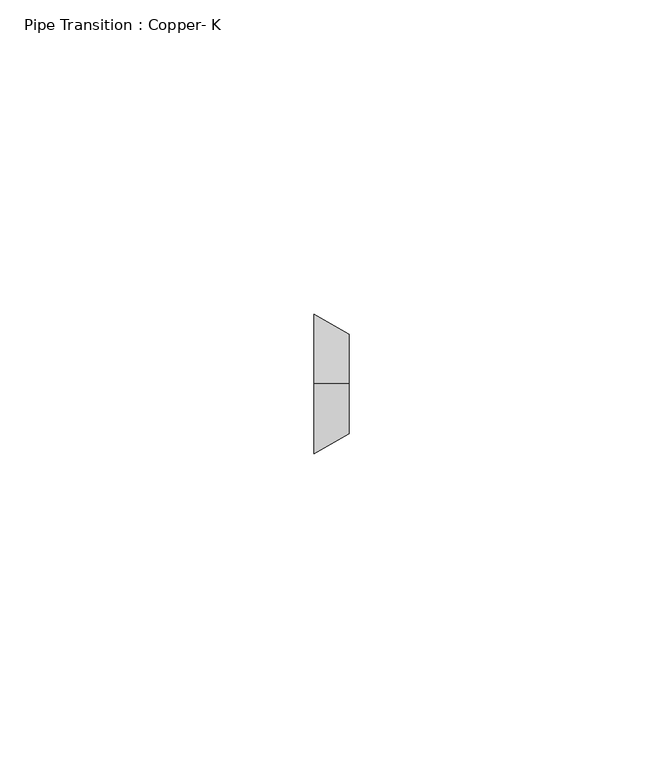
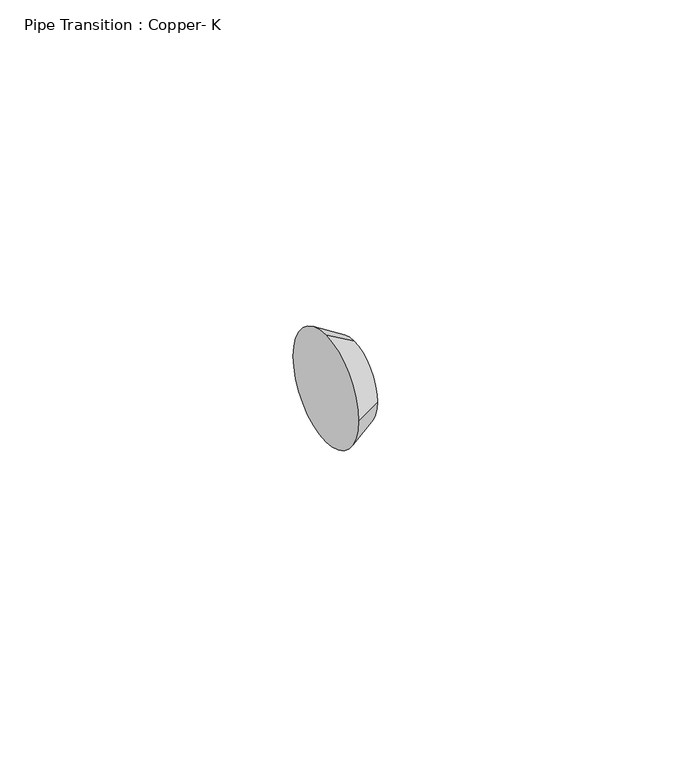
"""IFC4 building model written with IfcOpenShell, lengths in millimetres: pipe fitting geometry, Pipe Transition : Copper- K."""

from ifc_helpers import new_model, si_unit, frame, origin, place, context, project, spatial, circle_curve, source, transform, mapped, element, save
from ifc_brep_helpers import plane_surface, spline_surface, advanced_brep


def pipe_transition_copper_k_d23cabe6(model_context):
    return source(origin(), model_context, "Body", "AdvancedBrep", [
        advanced_brep(
        [(5.55625, 0.0, 7.9390355), (5.55625, -7.9375, 0.0015355), (5.55625, 0.0, -7.9359645), (5.55625, 7.9375, 0.0015355), (0.0, 0.0, 11.1125), (0.0, 11.1125, 0.0), (0.0, 0.0, -11.1125), (0.0, -11.1125, 0.0)],
        [
            (0, 1, circle_curve(frame((5.55625, 0.0, 0.0015355), z_axis=(1.0, 0.0, 0.0), x_axis=(0.0, 1.0, 0.0)), 7.9375)),
            (1, 2, circle_curve(frame((5.55625, 0.0, 0.0015355), z_axis=(1.0, 0.0, 0.0), x_axis=(0.0, 1.0, 0.0)), 7.9375)),
            (2, 3, circle_curve(frame((5.55625, 0.0, 0.0015355), z_axis=(1.0, 0.0, 0.0), x_axis=(0.0, 1.0, 0.0)), 7.9375)),
            (3, 0, circle_curve(frame((5.55625, 0.0, 0.0015355), z_axis=(1.0, 0.0, 0.0), x_axis=(0.0, 1.0, 0.0)), 7.9375)),
            (4, 5, circle_curve(frame((0.0, 0.0, 0.0), z_axis=(-1.0, 0.0, 0.0), x_axis=(0.0, 1.0, 0.0)), 11.1125)),
            (5, 6, circle_curve(frame((0.0, 0.0, 0.0), z_axis=(-1.0, 0.0, 0.0), x_axis=(0.0, 1.0, 0.0)), 11.1125)),
            (6, 7, circle_curve(frame((0.0, 0.0, 0.0), z_axis=(-1.0, 0.0, 0.0), x_axis=(0.0, 1.0, 0.0)), 11.1125)),
            (7, 4, circle_curve(frame((0.0, 0.0, 0.0), z_axis=(-1.0, 0.0, 0.0), x_axis=(0.0, 1.0, 0.0)), 11.1125)),
            (7, 1),
            (0, 4),
            (6, 2),
            (5, 3),
        ],
        [
            plane_surface(frame((5.55625, 0.0, 0.0015355), z_axis=(1.0, 0.0, 0.0), x_axis=(0.0, -1.0, 0.0))),
            plane_surface(frame((0.0, 0.0, 0.0), z_axis=(-1.0, 0.0, 0.0), x_axis=(0.0, -1.0, 0.0))),
            spline_surface(2, 1, [[(0.0, 0.0, 11.1125), (5.55625, 0.0, 7.9390355)], [(0.0, -11.1125, 11.1125), (5.55625, -7.9375, 7.9390355)], [(0.0, -11.1125, 0.0), (5.55625, -7.9375, 0.0015355)]], [3, 3], [2, 2], [0.0, 1.0], [0.0, 1.0], weights=[[1.0, 1.0], [0.7071067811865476, 0.7071067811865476], [1.0, 1.0]]),
            spline_surface(2, 1, [[(0.0, -11.1125, 0.0), (5.55625, -7.9375, 0.0015355)], [(0.0, -11.1125, -11.1125), (5.55625, -7.9375, -7.9359645)], [(0.0, 0.0, -11.1125), (5.55625, 0.0, -7.9359645)]], [3, 3], [2, 2], [0.0, 1.0], [0.0, 1.0], weights=[[1.0, 1.0], [0.7071067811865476, 0.7071067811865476], [1.0, 1.0]]),
            spline_surface(2, 1, [[(0.0, 0.0, -11.1125), (5.55625, 0.0, -7.9359645)], [(0.0, 11.1125, -11.1125), (5.55625, 7.9375, -7.9359645)], [(0.0, 11.1125, 0.0), (5.55625, 7.9375, 0.0015355)]], [3, 3], [2, 2], [0.0, 1.0], [0.0, 1.0], weights=[[1.0, 1.0], [0.7071067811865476, 0.7071067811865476], [1.0, 1.0]]),
            spline_surface(2, 1, [[(0.0, 11.1125, 0.0), (5.55625, 7.9375, 0.0015355)], [(0.0, 11.1125, 11.1125), (5.55625, 7.9375, 7.9390355)], [(0.0, 0.0, 11.1125), (5.55625, 0.0, 7.9390355)]], [3, 3], [2, 2], [0.0, 1.0], [0.0, 1.0], weights=[[1.0, 1.0], [0.7071067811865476, 0.7071067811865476], [1.0, 1.0]]),
        ],
        [
            (0, [[1, 2, 3, 4]]),
            (1, [[5, 6, 7, 8]]),
            (2, [[-8, 9, -1, 10]]),
            (3, [[-7, 11, -2, -9]]),
            (4, [[-6, 12, -3, -11]]),
            (5, [[-5, -10, -4, -12]]),
        ],
    ),
        advanced_brep(
        [(5.55625, 0.0, 7.9390355), (5.55625, -7.9375, 0.0015355), (5.55625, 0.0, -7.9359645), (5.55625, 7.9375, 0.0015355), (0.0, 0.0, 11.1125), (0.0, 11.1125, 0.0), (0.0, 0.0, -11.1125), (0.0, -11.1125, 0.0)],
        [
            (0, 1, circle_curve(frame((5.55625, 0.0, 0.0015355), z_axis=(1.0, 0.0, 0.0), x_axis=(0.0, 1.0, 0.0)), 7.9375)),
            (1, 2, circle_curve(frame((5.55625, 0.0, 0.0015355), z_axis=(1.0, 0.0, 0.0), x_axis=(0.0, 1.0, 0.0)), 7.9375)),
            (2, 3, circle_curve(frame((5.55625, 0.0, 0.0015355), z_axis=(1.0, 0.0, 0.0), x_axis=(0.0, 1.0, 0.0)), 7.9375)),
            (3, 0, circle_curve(frame((5.55625, 0.0, 0.0015355), z_axis=(1.0, 0.0, 0.0), x_axis=(0.0, 1.0, 0.0)), 7.9375)),
            (4, 5, circle_curve(frame((0.0, 0.0, 0.0), z_axis=(-1.0, 0.0, 0.0), x_axis=(0.0, 1.0, 0.0)), 11.1125)),
            (5, 6, circle_curve(frame((0.0, 0.0, 0.0), z_axis=(-1.0, 0.0, 0.0), x_axis=(0.0, 1.0, 0.0)), 11.1125)),
            (6, 7, circle_curve(frame((0.0, 0.0, 0.0), z_axis=(-1.0, 0.0, 0.0), x_axis=(0.0, 1.0, 0.0)), 11.1125)),
            (7, 4, circle_curve(frame((0.0, 0.0, 0.0), z_axis=(-1.0, 0.0, 0.0), x_axis=(0.0, 1.0, 0.0)), 11.1125)),
            (7, 1),
            (0, 4),
            (6, 2),
            (5, 3),
        ],
        [
            plane_surface(frame((5.55625, 0.0, 0.0015355), z_axis=(1.0, 0.0, 0.0), x_axis=(0.0, -1.0, 0.0))),
            plane_surface(frame((0.0, 0.0, 0.0), z_axis=(-1.0, 0.0, 0.0), x_axis=(0.0, -1.0, 0.0))),
            spline_surface(2, 1, [[(0.0, 0.0, 11.1125), (5.55625, 0.0, 7.9390355)], [(0.0, -11.1125, 11.1125), (5.55625, -7.9375, 7.9390355)], [(0.0, -11.1125, 0.0), (5.55625, -7.9375, 0.0015355)]], [3, 3], [2, 2], [0.0, 1.0], [0.0, 1.0], weights=[[1.0, 1.0], [0.7071067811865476, 0.7071067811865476], [1.0, 1.0]]),
            spline_surface(2, 1, [[(0.0, -11.1125, 0.0), (5.55625, -7.9375, 0.0015355)], [(0.0, -11.1125, -11.1125), (5.55625, -7.9375, -7.9359645)], [(0.0, 0.0, -11.1125), (5.55625, 0.0, -7.9359645)]], [3, 3], [2, 2], [0.0, 1.0], [0.0, 1.0], weights=[[1.0, 1.0], [0.7071067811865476, 0.7071067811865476], [1.0, 1.0]]),
            spline_surface(2, 1, [[(0.0, 0.0, -11.1125), (5.55625, 0.0, -7.9359645)], [(0.0, 11.1125, -11.1125), (5.55625, 7.9375, -7.9359645)], [(0.0, 11.1125, 0.0), (5.55625, 7.9375, 0.0015355)]], [3, 3], [2, 2], [0.0, 1.0], [0.0, 1.0], weights=[[1.0, 1.0], [0.7071067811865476, 0.7071067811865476], [1.0, 1.0]]),
            spline_surface(2, 1, [[(0.0, 11.1125, 0.0), (5.55625, 7.9375, 0.0015355)], [(0.0, 11.1125, 11.1125), (5.55625, 7.9375, 7.9390355)], [(0.0, 0.0, 11.1125), (5.55625, 0.0, 7.9390355)]], [3, 3], [2, 2], [0.0, 1.0], [0.0, 1.0], weights=[[1.0, 1.0], [0.7071067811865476, 0.7071067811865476], [1.0, 1.0]]),
        ],
        [
            (0, [[1, 2, 3, 4]]),
            (1, [[5, 6, 7, 8]]),
            (2, [[-8, 9, -1, 10]]),
            (3, [[-7, 11, -2, -9]]),
            (4, [[-6, 12, -3, -11]]),
            (5, [[-5, -10, -4, -12]]),
        ],
    ),
    ])


if __name__ == "__main__":
    model = new_model("IFC4")
    model_context = context("Model", 3, world=origin())
    ifc_project = project(units=[si_unit("LENGTHUNIT", "METRE", prefix="MILLI")], contexts=[model_context])
    site = spatial("IfcSite", under=ifc_project)
    building = spatial("IfcBuilding", under=site)
    placement = place(None, origin())
    pipe_transition_copper_k_shape = pipe_transition_copper_k_d23cabe6(model_context)
    element("IfcPipeFitting", 1, ObjectType="Pipe Transition : Copper- K", at=placement, inside=building, context=model_context, shape_type="MappedRepresentation", body=[
        mapped(pipe_transition_copper_k_shape, transform((0.0, 0.0, 0.0), x_axis=(1.0, 0.0, 0.0), y_axis=(0.0, 1.0, 0.0), z_axis=(0.0, 0.0, 1.0))),
    ])
    save(model, "model.ifc")
